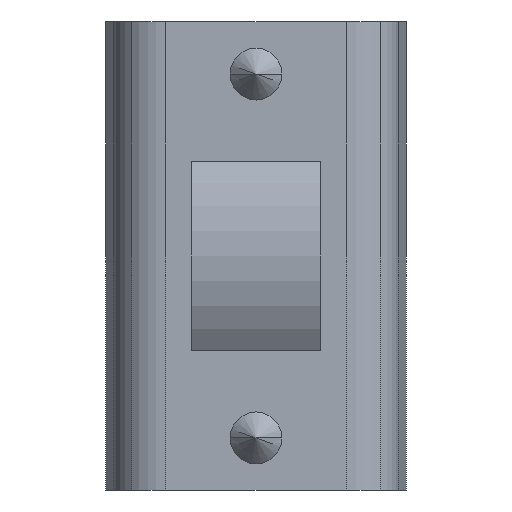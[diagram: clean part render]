
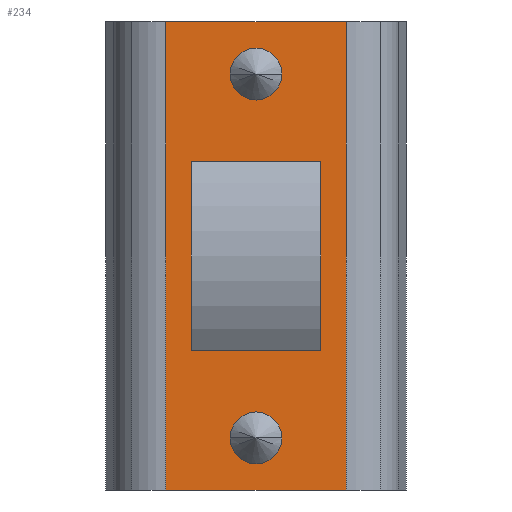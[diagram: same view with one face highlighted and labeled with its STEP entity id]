
A CAD part, front view. The second image highlights one B-rep face of the part: STEP entity #234.
In plain terms, the highlighted planar face has unit normal (0, -1, 0).
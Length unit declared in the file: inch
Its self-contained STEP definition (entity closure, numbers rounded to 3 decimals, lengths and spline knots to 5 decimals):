
#234=ADVANCED_FACE('',(#516,#517,#518,#519),#520,.T.);
#516=FACE_OUTER_BOUND('',#851,.T.);
#517=FACE_BOUND('',#852,.T.);
#518=FACE_BOUND('',#853,.T.);
#519=FACE_BOUND('',#854,.T.);
#520=PLANE('',#855);
#851=EDGE_LOOP('',(#1430,#1431,#1432,#1433));
#852=EDGE_LOOP('',(#1434,#1435,#1436,#1437,#1438,#1439));
#853=EDGE_LOOP('',(#1440,#1441));
#854=EDGE_LOOP('',(#1442,#1443));
#855=AXIS2_PLACEMENT_3D('',#1444,#1445,#1446);
#1430=ORIENTED_EDGE('',*,*,#2152,.F.);
#1431=ORIENTED_EDGE('',*,*,#2153,.T.);
#1432=ORIENTED_EDGE('',*,*,#2154,.F.);
#1433=ORIENTED_EDGE('',*,*,#2155,.T.);
#1434=ORIENTED_EDGE('',*,*,#2137,.T.);
#1435=ORIENTED_EDGE('',*,*,#2156,.T.);
#1436=ORIENTED_EDGE('',*,*,#2157,.T.);
#1437=ORIENTED_EDGE('',*,*,#2081,.T.);
#1438=ORIENTED_EDGE('',*,*,#2158,.T.);
#1439=ORIENTED_EDGE('',*,*,#2159,.T.);
#1440=ORIENTED_EDGE('',*,*,#2160,.T.);
#1441=ORIENTED_EDGE('',*,*,#2161,.T.);
#1442=ORIENTED_EDGE('',*,*,#2162,.T.);
#1443=ORIENTED_EDGE('',*,*,#2113,.T.);
#1444=CARTESIAN_POINT('',(0.0,0.0,0.0));
#1445=DIRECTION('',(0.0,-1.0,0.0));
#1446=DIRECTION('',(0.0,0.0,-1.0));
#2081=EDGE_CURVE('',#2532,#2530,#2533,.T.);
#2113=EDGE_CURVE('',#2579,#2583,#2585,.T.);
#2137=EDGE_CURVE('',#2615,#2613,#2616,.T.);
#2152=EDGE_CURVE('',#2634,#2635,#2636,.T.);
#2153=EDGE_CURVE('',#2634,#2637,#2638,.T.);
#2154=EDGE_CURVE('',#2639,#2637,#2640,.T.);
#2155=EDGE_CURVE('',#2639,#2635,#2641,.T.);
#2156=EDGE_CURVE('',#2613,#2642,#2643,.T.);
#2157=EDGE_CURVE('',#2642,#2532,#2644,.T.);
#2158=EDGE_CURVE('',#2530,#2645,#2646,.T.);
#2159=EDGE_CURVE('',#2645,#2615,#2647,.T.);
#2160=EDGE_CURVE('',#2648,#2649,#2650,.T.);
#2161=EDGE_CURVE('',#2649,#2648,#2651,.T.);
#2162=EDGE_CURVE('',#2583,#2579,#2652,.T.);
#2530=VERTEX_POINT('',#3118);
#2532=VERTEX_POINT('',#3120);
#2533=LINE('',#3121,#3122);
#2579=VERTEX_POINT('',#3179);
#2583=VERTEX_POINT('',#3184);
#2585=CIRCLE('',#3187,0.19685);
#2613=VERTEX_POINT('',#3223);
#2615=VERTEX_POINT('',#3225);
#2616=LINE('',#3226,#3227);
#2634=VERTEX_POINT('',#3252);
#2635=VERTEX_POINT('',#3253);
#2636=LINE('',#3254,#3255);
#2637=VERTEX_POINT('',#3256);
#2638=LINE('',#3257,#3258);
#2639=VERTEX_POINT('',#3259);
#2640=LINE('',#3260,#3261);
#2641=LINE('',#3262,#3263);
#2642=VERTEX_POINT('',#3264);
#2643=LINE('',#3265,#3266);
#2644=LINE('',#3267,#3268);
#2645=VERTEX_POINT('',#3269);
#2646=LINE('',#3270,#3271);
#2647=LINE('',#3272,#3273);
#2648=VERTEX_POINT('',#3274);
#2649=VERTEX_POINT('',#3275);
#2650=CIRCLE('',#3276,0.19685);
#2651=CIRCLE('',#3277,0.19685);
#2652=CIRCLE('',#3278,0.19685);
#3118=CARTESIAN_POINT('',(0.49213,0.0,0.));
#3120=CARTESIAN_POINT('',(0.49213,0.0,0.71654));
#3121=CARTESIAN_POINT('',(0.49213,0.0,0.));
#3122=VECTOR('',#3656,0.3937);
#3179=CARTESIAN_POINT('',(0.19685,0.0,-1.37795));
#3184=CARTESIAN_POINT('',(-0.19685,0.0,-1.37795));
#3187=AXIS2_PLACEMENT_3D('',#3703,#3704,#3705);
#3223=CARTESIAN_POINT('',(-0.49213,0.0,0.));
#3225=CARTESIAN_POINT('',(-0.49213,0.0,-0.71654));
#3226=CARTESIAN_POINT('',(-0.49213,0.0,-0.35827));
#3227=VECTOR('',#3735,0.3937);
#3252=CARTESIAN_POINT('',(0.68479,0.0,1.77165));
#3253=CARTESIAN_POINT('',(0.68479,0.0,-1.77165));
#3254=CARTESIAN_POINT('',(0.68479,0.0,0.0));
#3255=VECTOR('',#3746,0.3937);
#3256=CARTESIAN_POINT('',(-0.68479,0.0,1.77165));
#3257=CARTESIAN_POINT('',(-1.01845,0.0,1.77165));
#3258=VECTOR('',#3747,0.3937);
#3259=CARTESIAN_POINT('',(-0.68479,0.0,-1.77165));
#3260=CARTESIAN_POINT('',(-0.68479,0.0,0.0));
#3261=VECTOR('',#3748,0.3937);
#3262=CARTESIAN_POINT('',(-1.01845,0.0,-1.77165));
#3263=VECTOR('',#3749,0.3937);
#3264=CARTESIAN_POINT('',(-0.49213,0.0,0.71654));
#3265=CARTESIAN_POINT('',(-0.49213,0.0,-0.35827));
#3266=VECTOR('',#3750,0.3937);
#3267=CARTESIAN_POINT('',(-0.24606,0.0,0.71654));
#3268=VECTOR('',#3751,0.3937);
#3269=CARTESIAN_POINT('',(0.49213,0.0,-0.71654));
#3270=CARTESIAN_POINT('',(0.49213,0.0,0.));
#3271=VECTOR('',#3752,0.3937);
#3272=CARTESIAN_POINT('',(0.0,0.0,-0.71654));
#3273=VECTOR('',#3753,0.3937);
#3274=CARTESIAN_POINT('',(-0.19685,0.0,1.37795));
#3275=CARTESIAN_POINT('',(0.19685,0.0,1.37795));
#3276=AXIS2_PLACEMENT_3D('',#3754,#3755,#3756);
#3277=AXIS2_PLACEMENT_3D('',#3757,#3758,#3759);
#3278=AXIS2_PLACEMENT_3D('',#3760,#3761,#3762);
#3656=DIRECTION('',(0.,0.0,-1.0));
#3703=CARTESIAN_POINT('',(0.0,0.0,-1.37795));
#3704=DIRECTION('',(-0.0,1.0,0.0));
#3705=DIRECTION('',(1.0,0.0,0.0));
#3735=DIRECTION('',(0.,0.0,1.0));
#3746=DIRECTION('',(0.0,0.0,-1.0));
#3747=DIRECTION('',(-1.0,0.0,0.0));
#3748=DIRECTION('',(0.0,0.0,1.0));
#3749=DIRECTION('',(1.0,0.0,0.0));
#3750=DIRECTION('',(0.,0.0,1.0));
#3751=DIRECTION('',(1.0,0.0,0.0));
#3752=DIRECTION('',(0.,0.0,-1.0));
#3753=DIRECTION('',(-1.0,0.0,0.0));
#3754=CARTESIAN_POINT('',(0.0,0.0,1.37795));
#3755=DIRECTION('',(-0.0,1.0,0.0));
#3756=DIRECTION('',(1.0,0.0,0.0));
#3757=CARTESIAN_POINT('',(0.0,0.0,1.37795));
#3758=DIRECTION('',(-0.0,1.0,0.0));
#3759=DIRECTION('',(1.0,0.0,0.0));
#3760=CARTESIAN_POINT('',(0.0,0.0,-1.37795));
#3761=DIRECTION('',(-0.0,1.0,0.0));
#3762=DIRECTION('',(1.0,0.0,0.0));
